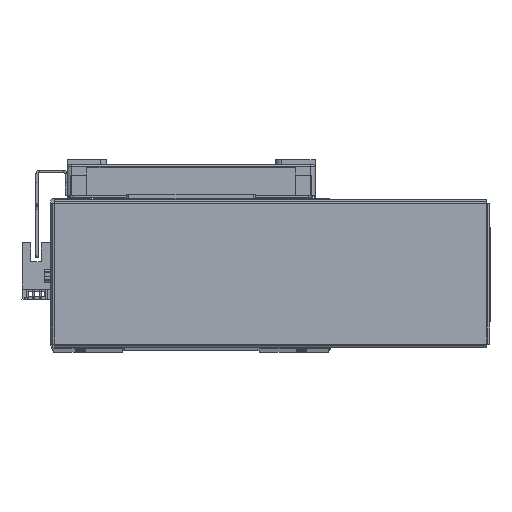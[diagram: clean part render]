
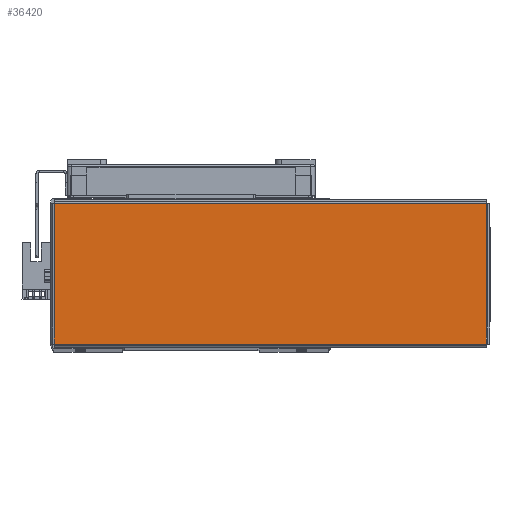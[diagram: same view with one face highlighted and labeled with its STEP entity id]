
A CAD part, top view. The second image highlights one B-rep face of the part: STEP entity #36420.
In plain terms, the highlighted planar face has unit normal (0, 0, 1) as drawn and (0, -1, 0) by its records, which use the part's own axes.
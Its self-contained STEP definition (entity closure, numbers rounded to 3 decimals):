
#4883 = DIRECTION ( 'NONE',  ( 0., 1., 0. ) ) ;
#4885 = DIRECTION ( 'NONE',  ( 0., 0., 1. ) ) ;
#4950 = PLANE ( 'NONE',  #60374 ) ;
#4954 = CARTESIAN_POINT ( 'NONE',  ( 0., -1., 0. ) ) ;
#15449 = CARTESIAN_POINT ( 'NONE',  ( 103.763, -1., -33.763 ) ) ;
#15547 = CARTESIAN_POINT ( 'NONE',  ( 103.763, -1., 33.763 ) ) ;
#15555 = CARTESIAN_POINT ( 'NONE',  ( -103.763, -1., 33.763 ) ) ;
#15616 = CARTESIAN_POINT ( 'NONE',  ( -103.763, -1., -33.763 ) ) ;
#21659 = EDGE_CURVE ( 'NONE', #48713, #48755, #32900, .T. ) ;
#21765 = EDGE_CURVE ( 'NONE', #48660, #48721, #33075, .T. ) ;
#21914 = EDGE_CURVE ( 'NONE', #48721, #48713, #33333, .T. ) ;
#21920 = EDGE_CURVE ( 'NONE', #48755, #48660, #33249, .T. ) ;
#28232 = CARTESIAN_POINT ( 'NONE',  ( -103.793, -1., -33.763 ) ) ;
#28237 = DIRECTION ( 'NONE',  ( -1., 0., 0. ) ) ;
#28238 = CARTESIAN_POINT ( 'NONE',  ( 103.793, -1., 33.763 ) ) ;
#28253 = DIRECTION ( 'NONE',  ( 1., 0., 0. ) ) ;
#30932 = ORIENTED_EDGE ( 'NONE', *, *, #21765, .T. ) ;
#30984 = ORIENTED_EDGE ( 'NONE', *, *, #21920, .T. ) ;
#32900 = LINE ( 'NONE', #35814, #32902 ) ;
#32902 = VECTOR ( 'NONE', #35798, 1000. ) ;
#32983 = VECTOR ( 'NONE', #35985, 1000. ) ;
#33075 = LINE ( 'NONE', #36002, #32983 ) ;
#33249 = LINE ( 'NONE', #28232, #33281 ) ;
#33273 = VECTOR ( 'NONE', #28237, 1000. ) ;
#33281 = VECTOR ( 'NONE', #28253, 1000. ) ;
#33333 = LINE ( 'NONE', #28238, #33273 ) ;
#35798 = DIRECTION ( 'NONE',  ( 0., 0., -1. ) ) ;
#35814 = CARTESIAN_POINT ( 'NONE',  ( -103.763, -1., 33.793 ) ) ;
#35985 = DIRECTION ( 'NONE',  ( 0., 0., 1. ) ) ;
#36002 = CARTESIAN_POINT ( 'NONE',  ( 103.763, -1., -33.793 ) ) ;
#36420 = ADVANCED_FACE ( 'NONE', ( #64497 ), #4950, .F. ) ;
#46239 = ORIENTED_EDGE ( 'NONE', *, *, #21659, .T. ) ;
#46283 = ORIENTED_EDGE ( 'NONE', *, *, #21914, .T. ) ;
#48660 = VERTEX_POINT ( 'NONE', #15449 ) ;
#48713 = VERTEX_POINT ( 'NONE', #15555 ) ;
#48721 = VERTEX_POINT ( 'NONE', #15547 ) ;
#48755 = VERTEX_POINT ( 'NONE', #15616 ) ;
#60374 = AXIS2_PLACEMENT_3D ( 'NONE', #4954, #4883, #4885 ) ;
#63149 = EDGE_LOOP ( 'NONE', ( #46283, #46239, #30984, #30932 ) ) ;
#64497 = FACE_OUTER_BOUND ( 'NONE', #63149, .T. ) ;
